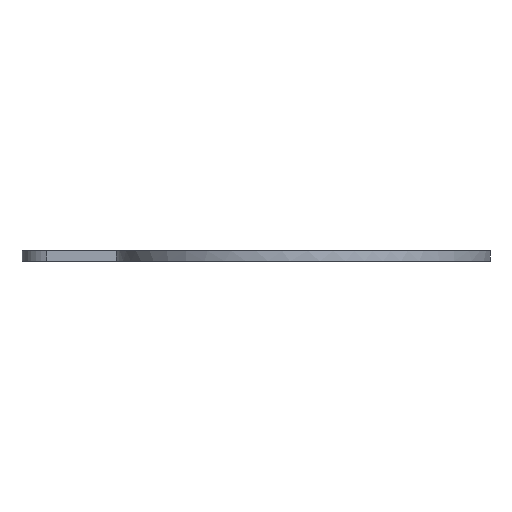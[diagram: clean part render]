
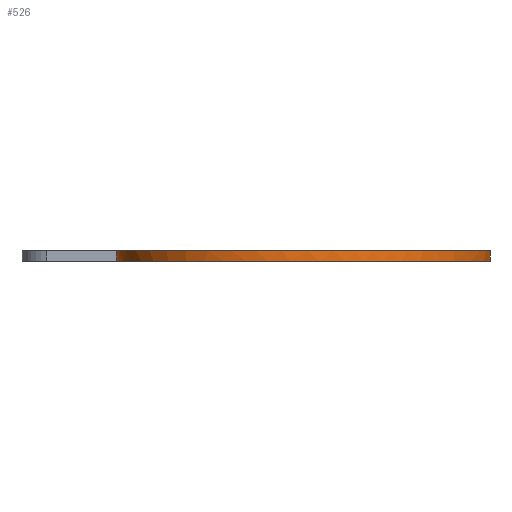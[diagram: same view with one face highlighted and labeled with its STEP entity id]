
A CAD part, front view. The second image highlights one B-rep face of the part: STEP entity #526.
In plain terms, the highlighted free-form (B-spline) face has degree [3, 1] with [25, 2] control points.
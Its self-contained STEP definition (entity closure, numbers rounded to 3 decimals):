
#110=FACE_OUTER_BOUND('',#136,.T.);
#136=EDGE_LOOP('',(#433,#434,#435,#436));
#188=LINE('',#1193,#218);
#189=LINE('',#1296,#219);
#218=VECTOR('',#708,10.);
#219=VECTOR('',#709,10.);
#233=B_SPLINE_CURVE_WITH_KNOTS('',3,(#1245,#1246,#1247,#1248,#1249,#1250,
#1251,#1252,#1253,#1254,#1255,#1256,#1257,#1258,#1259,#1260,#1261,#1262,
#1263,#1264,#1265,#1266,#1267,#1268,#1269),.UNSPECIFIED.,.F.,.F.,(4,3,3,
3,3,3,3,3,4),(0.,0.173,0.322,0.465,
0.582,0.689,0.805,0.928,
1.),.UNSPECIFIED.);
#234=B_SPLINE_CURVE_WITH_KNOTS('',3,(#1271,#1272,#1273,#1274,#1275,#1276,
#1277,#1278,#1279,#1280,#1281,#1282,#1283,#1284,#1285,#1286,#1287,#1288,
#1289,#1290,#1291,#1292,#1293,#1294,#1295),.UNSPECIFIED.,.F.,.F.,(4,3,3,
3,3,3,3,3,4),(-1.,-0.928,-0.805,-0.689,
-0.582,-0.465,-0.322,-0.173,
0.),.UNSPECIFIED.);
#275=VERTEX_POINT('',#1189);
#276=VERTEX_POINT('',#1191);
#277=VERTEX_POINT('',#1244);
#278=VERTEX_POINT('',#1270);
#342=EDGE_CURVE('',#275,#276,#188,.T.);
#343=EDGE_CURVE('',#275,#277,#233,.T.);
#344=EDGE_CURVE('',#278,#276,#234,.T.);
#345=EDGE_CURVE('',#277,#278,#189,.T.);
#433=ORIENTED_EDGE('',*,*,#343,.F.);
#434=ORIENTED_EDGE('',*,*,#342,.T.);
#435=ORIENTED_EDGE('',*,*,#344,.F.);
#436=ORIENTED_EDGE('',*,*,#345,.F.);
#505=B_SPLINE_SURFACE_WITH_KNOTS('',3,1,((#1194,#1195),(#1196,#1197),(#1198,
#1199),(#1200,#1201),(#1202,#1203),(#1204,#1205),(#1206,#1207),(#1208,#1209),
(#1210,#1211),(#1212,#1213),(#1214,#1215),(#1216,#1217),(#1218,#1219),(#1220,
#1221),(#1222,#1223),(#1224,#1225),(#1226,#1227),(#1228,#1229),(#1230,#1231),
(#1232,#1233),(#1234,#1235),(#1236,#1237),(#1238,#1239),(#1240,#1241),(#1242,
#1243)),.UNSPECIFIED.,.F.,.F.,.F.,(4,3,3,3,3,3,3,3,4),(2,2),(-1.,-0.928,
-0.805,-0.689,-0.582,-0.465,
-0.322,-0.173,0.),(0.,0.15),.UNSPECIFIED.);
#526=ADVANCED_FACE('',(#110),#505,.T.);
#708=DIRECTION('',(0.,0.,-1.));
#709=DIRECTION('',(0.,0.,-1.));
#1189=CARTESIAN_POINT('',(4.224,17.323,-14.405));
#1191=CARTESIAN_POINT('',(4.224,17.323,-15.905));
#1193=CARTESIAN_POINT('',(4.224,17.323,-14.405));
#1194=CARTESIAN_POINT('Ctrl Pts',(57.85,24.541,-14.405));
#1195=CARTESIAN_POINT('Ctrl Pts',(57.85,24.541,-15.905));
#1196=CARTESIAN_POINT('Ctrl Pts',(57.674,22.704,-14.405));
#1197=CARTESIAN_POINT('Ctrl Pts',(57.674,22.704,-15.905));
#1198=CARTESIAN_POINT('Ctrl Pts',(57.306,20.849,-14.405));
#1199=CARTESIAN_POINT('Ctrl Pts',(57.306,20.849,-15.905));
#1200=CARTESIAN_POINT('Ctrl Pts',(56.763,18.979,-14.405));
#1201=CARTESIAN_POINT('Ctrl Pts',(56.763,18.979,-15.905));
#1202=CARTESIAN_POINT('Ctrl Pts',(55.832,15.772,-14.405));
#1203=CARTESIAN_POINT('Ctrl Pts',(55.832,15.772,-15.905));
#1204=CARTESIAN_POINT('Ctrl Pts',(54.394,12.48,-14.405));
#1205=CARTESIAN_POINT('Ctrl Pts',(54.394,12.48,-15.905));
#1206=CARTESIAN_POINT('Ctrl Pts',(52.437,9.349,-14.405));
#1207=CARTESIAN_POINT('Ctrl Pts',(52.437,9.349,-15.905));
#1208=CARTESIAN_POINT('Ctrl Pts',(50.597,6.406,-14.405));
#1209=CARTESIAN_POINT('Ctrl Pts',(50.597,6.406,-15.905));
#1210=CARTESIAN_POINT('Ctrl Pts',(48.255,3.65,-14.405));
#1211=CARTESIAN_POINT('Ctrl Pts',(48.255,3.65,-15.905));
#1212=CARTESIAN_POINT('Ctrl Pts',(45.561,1.543,-14.405));
#1213=CARTESIAN_POINT('Ctrl Pts',(45.561,1.543,-15.905));
#1214=CARTESIAN_POINT('Ctrl Pts',(43.078,-0.4,-14.405));
#1215=CARTESIAN_POINT('Ctrl Pts',(43.078,-0.4,-15.905));
#1216=CARTESIAN_POINT('Ctrl Pts',(40.369,-1.785,-14.405));
#1217=CARTESIAN_POINT('Ctrl Pts',(40.369,-1.785,-15.905));
#1218=CARTESIAN_POINT('Ctrl Pts',(37.625,-2.741,-14.405));
#1219=CARTESIAN_POINT('Ctrl Pts',(37.625,-2.741,-15.905));
#1220=CARTESIAN_POINT('Ctrl Pts',(34.612,-3.79,-14.405));
#1221=CARTESIAN_POINT('Ctrl Pts',(34.612,-3.79,-15.905));
#1222=CARTESIAN_POINT('Ctrl Pts',(31.47,-4.367,-14.405));
#1223=CARTESIAN_POINT('Ctrl Pts',(31.47,-4.367,-15.905));
#1224=CARTESIAN_POINT('Ctrl Pts',(28.294,-4.377,-14.405));
#1225=CARTESIAN_POINT('Ctrl Pts',(28.294,-4.377,-15.905));
#1226=CARTESIAN_POINT('Ctrl Pts',(24.419,-4.389,-14.405));
#1227=CARTESIAN_POINT('Ctrl Pts',(24.419,-4.389,-15.905));
#1228=CARTESIAN_POINT('Ctrl Pts',(20.597,-3.514,-14.405));
#1229=CARTESIAN_POINT('Ctrl Pts',(20.597,-3.514,-15.905));
#1230=CARTESIAN_POINT('Ctrl Pts',(17.222,-1.902,-14.405));
#1231=CARTESIAN_POINT('Ctrl Pts',(17.222,-1.902,-15.905));
#1232=CARTESIAN_POINT('Ctrl Pts',(13.724,-0.232,-14.405));
#1233=CARTESIAN_POINT('Ctrl Pts',(13.724,-0.232,-15.905));
#1234=CARTESIAN_POINT('Ctrl Pts',(10.66,2.272,-14.405));
#1235=CARTESIAN_POINT('Ctrl Pts',(10.66,2.272,-15.905));
#1236=CARTESIAN_POINT('Ctrl Pts',(8.427,5.293,-14.405));
#1237=CARTESIAN_POINT('Ctrl Pts',(8.427,5.293,-15.905));
#1238=CARTESIAN_POINT('Ctrl Pts',(5.814,8.827,-14.405));
#1239=CARTESIAN_POINT('Ctrl Pts',(5.814,8.827,-15.905));
#1240=CARTESIAN_POINT('Ctrl Pts',(4.335,13.028,-14.405));
#1241=CARTESIAN_POINT('Ctrl Pts',(4.335,13.028,-15.905));
#1242=CARTESIAN_POINT('Ctrl Pts',(4.224,17.323,-14.405));
#1243=CARTESIAN_POINT('Ctrl Pts',(4.224,17.323,-15.905));
#1244=CARTESIAN_POINT('',(57.85,24.541,-14.405));
#1245=CARTESIAN_POINT('Ctrl Pts',(4.224,17.323,-14.405));
#1246=CARTESIAN_POINT('Ctrl Pts',(4.335,13.028,-14.405));
#1247=CARTESIAN_POINT('Ctrl Pts',(5.814,8.827,-14.405));
#1248=CARTESIAN_POINT('Ctrl Pts',(8.427,5.293,-14.405));
#1249=CARTESIAN_POINT('Ctrl Pts',(10.66,2.272,-14.405));
#1250=CARTESIAN_POINT('Ctrl Pts',(13.724,-0.232,-14.405));
#1251=CARTESIAN_POINT('Ctrl Pts',(17.222,-1.902,-14.405));
#1252=CARTESIAN_POINT('Ctrl Pts',(20.597,-3.514,-14.405));
#1253=CARTESIAN_POINT('Ctrl Pts',(24.419,-4.389,-14.405));
#1254=CARTESIAN_POINT('Ctrl Pts',(28.294,-4.377,-14.405));
#1255=CARTESIAN_POINT('Ctrl Pts',(31.47,-4.367,-14.405));
#1256=CARTESIAN_POINT('Ctrl Pts',(34.612,-3.79,-14.405));
#1257=CARTESIAN_POINT('Ctrl Pts',(37.625,-2.741,-14.405));
#1258=CARTESIAN_POINT('Ctrl Pts',(40.369,-1.785,-14.405));
#1259=CARTESIAN_POINT('Ctrl Pts',(43.078,-0.4,-14.405));
#1260=CARTESIAN_POINT('Ctrl Pts',(45.561,1.543,-14.405));
#1261=CARTESIAN_POINT('Ctrl Pts',(48.255,3.65,-14.405));
#1262=CARTESIAN_POINT('Ctrl Pts',(50.597,6.406,-14.405));
#1263=CARTESIAN_POINT('Ctrl Pts',(52.437,9.349,-14.405));
#1264=CARTESIAN_POINT('Ctrl Pts',(54.394,12.48,-14.405));
#1265=CARTESIAN_POINT('Ctrl Pts',(55.832,15.772,-14.405));
#1266=CARTESIAN_POINT('Ctrl Pts',(56.763,18.979,-14.405));
#1267=CARTESIAN_POINT('Ctrl Pts',(57.306,20.849,-14.405));
#1268=CARTESIAN_POINT('Ctrl Pts',(57.674,22.704,-14.405));
#1269=CARTESIAN_POINT('Ctrl Pts',(57.85,24.541,-14.405));
#1270=CARTESIAN_POINT('',(57.85,24.541,-15.905));
#1271=CARTESIAN_POINT('Ctrl Pts',(57.85,24.541,-15.905));
#1272=CARTESIAN_POINT('Ctrl Pts',(57.674,22.704,-15.905));
#1273=CARTESIAN_POINT('Ctrl Pts',(57.306,20.849,-15.905));
#1274=CARTESIAN_POINT('Ctrl Pts',(56.763,18.979,-15.905));
#1275=CARTESIAN_POINT('Ctrl Pts',(55.832,15.772,-15.905));
#1276=CARTESIAN_POINT('Ctrl Pts',(54.394,12.48,-15.905));
#1277=CARTESIAN_POINT('Ctrl Pts',(52.437,9.349,-15.905));
#1278=CARTESIAN_POINT('Ctrl Pts',(50.597,6.406,-15.905));
#1279=CARTESIAN_POINT('Ctrl Pts',(48.255,3.65,-15.905));
#1280=CARTESIAN_POINT('Ctrl Pts',(45.561,1.543,-15.905));
#1281=CARTESIAN_POINT('Ctrl Pts',(43.078,-0.4,-15.905));
#1282=CARTESIAN_POINT('Ctrl Pts',(40.369,-1.785,-15.905));
#1283=CARTESIAN_POINT('Ctrl Pts',(37.625,-2.741,-15.905));
#1284=CARTESIAN_POINT('Ctrl Pts',(34.612,-3.79,-15.905));
#1285=CARTESIAN_POINT('Ctrl Pts',(31.47,-4.367,-15.905));
#1286=CARTESIAN_POINT('Ctrl Pts',(28.294,-4.377,-15.905));
#1287=CARTESIAN_POINT('Ctrl Pts',(24.419,-4.389,-15.905));
#1288=CARTESIAN_POINT('Ctrl Pts',(20.597,-3.514,-15.905));
#1289=CARTESIAN_POINT('Ctrl Pts',(17.222,-1.902,-15.905));
#1290=CARTESIAN_POINT('Ctrl Pts',(13.724,-0.232,-15.905));
#1291=CARTESIAN_POINT('Ctrl Pts',(10.66,2.272,-15.905));
#1292=CARTESIAN_POINT('Ctrl Pts',(8.427,5.293,-15.905));
#1293=CARTESIAN_POINT('Ctrl Pts',(5.814,8.827,-15.905));
#1294=CARTESIAN_POINT('Ctrl Pts',(4.335,13.028,-15.905));
#1295=CARTESIAN_POINT('Ctrl Pts',(4.224,17.323,-15.905));
#1296=CARTESIAN_POINT('',(57.85,24.541,-14.405));
